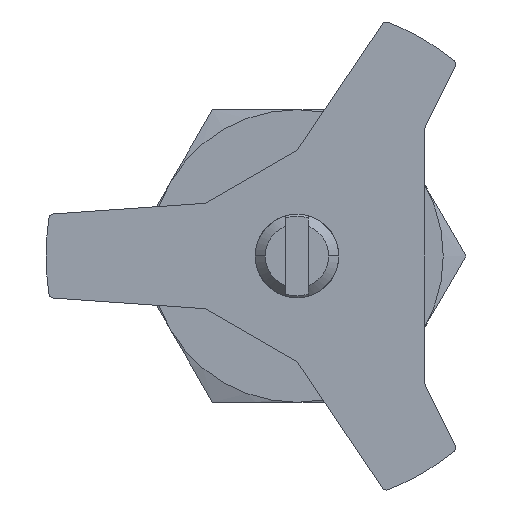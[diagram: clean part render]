
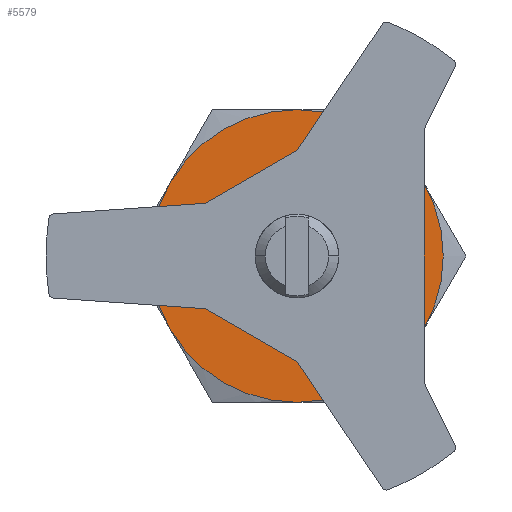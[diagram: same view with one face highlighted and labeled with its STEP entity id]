
A CAD part, left-side view. The second image highlights one B-rep face of the part: STEP entity #5579.
In plain terms, the highlighted planar face has unit normal (-1, 0, 0).
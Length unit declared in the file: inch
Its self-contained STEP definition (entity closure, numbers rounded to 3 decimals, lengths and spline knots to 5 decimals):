
#3726=CARTESIAN_POINT('',(-1.398,0.12644,0.219));
#3727=VERTEX_POINT('',#3726);
#3734=CARTESIAN_POINT('',(-1.398,0.25288,0.));
#3735=VERTEX_POINT('',#3734);
#3736=CARTESIAN_POINT('',(-1.398,0.12644,0.219));
#3737=DIRECTION('',(0.0,0.5,-0.866));
#3738=VECTOR('',#3737,0.25288);
#3739=LINE('',#3736,#3738);
#3740=EDGE_CURVE('',#3727,#3735,#3739,.T.);
#3758=CARTESIAN_POINT('',(-1.398,-0.12644,0.219));
#3759=VERTEX_POINT('',#3758);
#3760=CARTESIAN_POINT('',(-1.398,-0.12644,0.219));
#3761=DIRECTION('',(0.0,1.0,0.0));
#3762=VECTOR('',#3761,0.25288);
#3763=LINE('',#3760,#3762);
#3764=EDGE_CURVE('',#3759,#3727,#3763,.T.);
#3783=CARTESIAN_POINT('',(-1.398,-0.25288,0.));
#3784=VERTEX_POINT('',#3783);
#3785=CARTESIAN_POINT('',(-1.398,-0.25288,0.));
#3786=DIRECTION('',(0.0,0.5,0.866));
#3787=VECTOR('',#3786,0.25288);
#3788=LINE('',#3785,#3787);
#3789=EDGE_CURVE('',#3784,#3759,#3788,.T.);
#3808=CARTESIAN_POINT('',(-1.398,-0.12644,-0.219));
#3809=VERTEX_POINT('',#3808);
#3810=CARTESIAN_POINT('',(-1.398,-0.12644,-0.219));
#3811=DIRECTION('',(0.0,-0.5,0.866));
#3812=VECTOR('',#3811,0.25288);
#3813=LINE('',#3810,#3812);
#3814=EDGE_CURVE('',#3809,#3784,#3813,.T.);
#3914=CARTESIAN_POINT('',(-1.398,0.12644,-0.219));
#3915=VERTEX_POINT('',#3914);
#3922=CARTESIAN_POINT('',(-1.398,0.12644,-0.219));
#3923=DIRECTION('',(0.0,-1.0,0.0));
#3924=VECTOR('',#3923,0.25288);
#3925=LINE('',#3922,#3924);
#3926=EDGE_CURVE('',#3915,#3809,#3925,.T.);
#3940=CARTESIAN_POINT('',(-1.398,0.25288,0.));
#3941=DIRECTION('',(0.0,-0.5,-0.866));
#3942=VECTOR('',#3941,0.25288);
#3943=LINE('',#3940,#3942);
#3944=EDGE_CURVE('',#3735,#3915,#3943,.T.);
#3980=CARTESIAN_POINT('',(-1.398,-0.37889,-0.21875));
#3981=VERTEX_POINT('',#3980);
#4053=CARTESIAN_POINT('',(-1.398,0.,-0.4375));
#4054=VERTEX_POINT('',#4053);
#4135=CARTESIAN_POINT('',(-1.398,-0.37889,0.21875));
#4136=VERTEX_POINT('',#4135);
#4221=CARTESIAN_POINT('',(-1.398,0.,0.4375));
#4222=VERTEX_POINT('',#4221);
#4294=CARTESIAN_POINT('',(-1.398,0.37889,0.21875));
#4295=VERTEX_POINT('',#4294);
#4358=CARTESIAN_POINT('',(-1.398,0.37889,-0.21875));
#4359=VERTEX_POINT('',#4358);
#4396=CARTESIAN_POINT('',(-1.398,0.,0.));
#4397=DIRECTION('',(-1.0,0.0,0.0));
#4398=DIRECTION('',(0.0,0.0,-1.0));
#4399=AXIS2_PLACEMENT_3D('',#4396,#4397,#4398);
#4400=CIRCLE('',#4399,0.4375);
#4401=EDGE_CURVE('',#4136,#4222,#4400,.T.);
#4413=CARTESIAN_POINT('',(-1.398,0.,0.));
#4414=DIRECTION('',(-1.0,0.0,0.0));
#4415=DIRECTION('',(0.0,0.0,-1.0));
#4416=AXIS2_PLACEMENT_3D('',#4413,#4414,#4415);
#4417=CIRCLE('',#4416,0.4375);
#4418=EDGE_CURVE('',#4222,#4295,#4417,.T.);
#4430=CARTESIAN_POINT('',(-1.398,0.,0.));
#4431=DIRECTION('',(-1.0,0.0,0.0));
#4432=DIRECTION('',(0.0,0.0,-1.0));
#4433=AXIS2_PLACEMENT_3D('',#4430,#4431,#4432);
#4434=CIRCLE('',#4433,0.4375);
#4435=EDGE_CURVE('',#4295,#4359,#4434,.T.);
#4448=CARTESIAN_POINT('',(-1.398,0.,0.));
#4449=DIRECTION('',(-1.0,0.0,0.0));
#4450=DIRECTION('',(0.0,0.0,-1.0));
#4451=AXIS2_PLACEMENT_3D('',#4448,#4449,#4450);
#4452=CIRCLE('',#4451,0.4375);
#4453=EDGE_CURVE('',#4359,#4054,#4452,.T.);
#4465=CARTESIAN_POINT('',(-1.398,0.,0.));
#4466=DIRECTION('',(-1.0,0.0,0.0));
#4467=DIRECTION('',(0.0,0.0,-1.0));
#4468=AXIS2_PLACEMENT_3D('',#4465,#4466,#4467);
#4469=CIRCLE('',#4468,0.4375);
#4470=EDGE_CURVE('',#4054,#3981,#4469,.T.);
#4482=CARTESIAN_POINT('',(-1.398,0.,0.));
#4483=DIRECTION('',(-1.0,0.0,0.0));
#4484=DIRECTION('',(0.0,0.0,-1.0));
#4485=AXIS2_PLACEMENT_3D('',#4482,#4483,#4484);
#4486=CIRCLE('',#4485,0.4375);
#4487=EDGE_CURVE('',#3981,#4136,#4486,.T.);
#5558=CARTESIAN_POINT('',(-1.398,0.,0.));
#5559=DIRECTION('',(-1.0,0.0,0.0));
#5560=DIRECTION('',(0.0,0.0,-1.0));
#5561=AXIS2_PLACEMENT_3D('',#5558,#5559,#5560);
#5562=PLANE('',#5561);
#5563=ORIENTED_EDGE('',*,*,#4401,.T.);
#5564=ORIENTED_EDGE('',*,*,#4418,.T.);
#5565=ORIENTED_EDGE('',*,*,#4435,.T.);
#5566=ORIENTED_EDGE('',*,*,#4453,.T.);
#5567=ORIENTED_EDGE('',*,*,#4470,.T.);
#5568=ORIENTED_EDGE('',*,*,#4487,.T.);
#5569=EDGE_LOOP('',(#5563,#5564,#5565,#5566,#5567,#5568));
#5570=FACE_OUTER_BOUND('',#5569,.T.);
#5571=ORIENTED_EDGE('',*,*,#3944,.F.);
#5572=ORIENTED_EDGE('',*,*,#3740,.F.);
#5573=ORIENTED_EDGE('',*,*,#3764,.F.);
#5574=ORIENTED_EDGE('',*,*,#3789,.F.);
#5575=ORIENTED_EDGE('',*,*,#3814,.F.);
#5576=ORIENTED_EDGE('',*,*,#3926,.F.);
#5577=EDGE_LOOP('',(#5571,#5572,#5573,#5574,#5575,#5576));
#5578=FACE_BOUND('',#5577,.T.);
#5579=ADVANCED_FACE('',(#5570,#5578),#5562,.T.);
